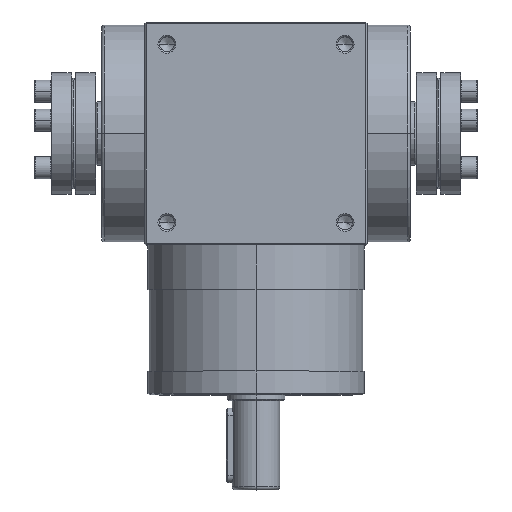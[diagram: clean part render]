
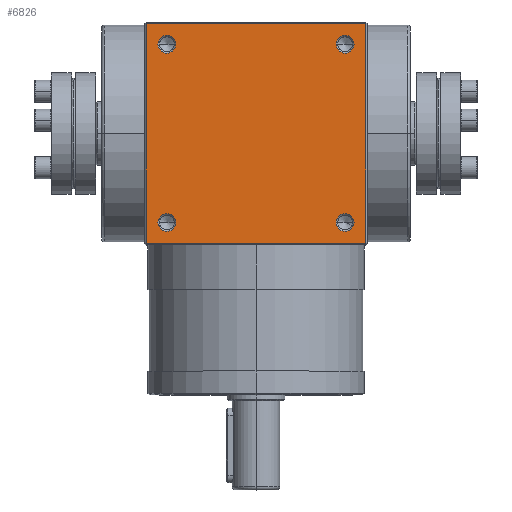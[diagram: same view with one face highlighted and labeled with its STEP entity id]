
A CAD part, top view. The second image highlights one B-rep face of the part: STEP entity #6826.
In plain terms, the highlighted planar face has unit normal (0, 0, 1).
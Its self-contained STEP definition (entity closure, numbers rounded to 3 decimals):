
#1 = CARTESIAN_POINT ( 'NONE',  ( 33., 30., 37.5 ) ) ;
#110 = VERTEX_POINT ( 'NONE', #9099 ) ;
#283 = DIRECTION ( 'NONE',  ( 0., 0., -1. ) ) ;
#594 = DIRECTION ( 'NONE',  ( -1., 0., 0. ) ) ;
#774 = AXIS2_PLACEMENT_3D ( 'NONE', #19070, #283, #19214 ) ;
#809 = DIRECTION ( 'NONE',  ( -1., 0., 0. ) ) ;
#1433 = CARTESIAN_POINT ( 'NONE',  ( 27., 30., 37.5 ) ) ;
#1584 = VECTOR ( 'NONE', #5516, 1000. ) ;
#1872 = DIRECTION ( 'NONE',  ( 0., 0., -1. ) ) ;
#2216 = CARTESIAN_POINT ( 'NONE',  ( -27., -30., 37.5 ) ) ;
#2442 = AXIS2_PLACEMENT_3D ( 'NONE', #7153, #1872, #7289 ) ;
#2523 = DIRECTION ( 'NONE',  ( -1., 0., 0. ) ) ;
#2906 = EDGE_CURVE ( 'NONE', #9012, #10651, #6354, .T. ) ;
#3180 = DIRECTION ( 'NONE',  ( 0., 0., -1. ) ) ;
#3316 = CARTESIAN_POINT ( 'NONE',  ( -37., -37., 37.5 ) ) ;
#3407 = DIRECTION ( 'NONE',  ( -1., 0., 0. ) ) ;
#3826 = EDGE_CURVE ( 'NONE', #10550, #14139, #6824, .T. ) ;
#4050 = EDGE_CURVE ( 'NONE', #10661, #20926, #12363, .T. ) ;
#4085 = DIRECTION ( 'NONE',  ( 1., 0., 0. ) ) ;
#4094 = ORIENTED_EDGE ( 'NONE', *, *, #3826, .T. ) ;
#4097 = DIRECTION ( 'NONE',  ( -1., 0., 0. ) ) ;
#4385 = DIRECTION ( 'NONE',  ( 0., 0., -1. ) ) ;
#4804 = AXIS2_PLACEMENT_3D ( 'NONE', #7010, #7545, #5355 ) ;
#4977 = FACE_BOUND ( 'NONE', #20074, .T. ) ;
#5001 = LINE ( 'NONE', #5279, #7433 ) ;
#5279 = CARTESIAN_POINT ( 'NONE',  ( 0., 37., 37.5 ) ) ;
#5355 = DIRECTION ( 'NONE',  ( -1., 0., 0. ) ) ;
#5420 = ORIENTED_EDGE ( 'NONE', *, *, #4050, .T. ) ;
#5516 = DIRECTION ( 'NONE',  ( 0., 1., 0. ) ) ;
#5616 = DIRECTION ( 'NONE',  ( 0., 0., -1. ) ) ;
#5671 = ORIENTED_EDGE ( 'NONE', *, *, #15772, .T. ) ;
#5861 = ORIENTED_EDGE ( 'NONE', *, *, #9810, .T. ) ;
#5871 = CARTESIAN_POINT ( 'NONE',  ( -37., 0., 37.5 ) ) ;
#6195 = AXIS2_PLACEMENT_3D ( 'NONE', #16116, #5616, #809 ) ;
#6251 = VECTOR ( 'NONE', #4085, 1000. ) ;
#6302 = AXIS2_PLACEMENT_3D ( 'NONE', #17939, #16217, #2523 ) ;
#6348 = EDGE_CURVE ( 'NONE', #110, #7300, #20746, .T. ) ;
#6354 = CIRCLE ( 'NONE', #6453, 3. ) ;
#6453 = AXIS2_PLACEMENT_3D ( 'NONE', #16746, #3180, #6757 ) ;
#6757 = DIRECTION ( 'NONE',  ( -1., 0., 0. ) ) ;
#6824 = CIRCLE ( 'NONE', #6195, 3. ) ;
#6826 = ADVANCED_FACE ( 'NONE', ( #12476, #19925, #11711, #4977, #9036 ), #18903, .F. ) ;
#6920 = DIRECTION ( 'NONE',  ( 0., 0., -1. ) ) ;
#7010 = CARTESIAN_POINT ( 'NONE',  ( 30., -30., 37.5 ) ) ;
#7153 = CARTESIAN_POINT ( 'NONE',  ( 0., 0., 37.5 ) ) ;
#7289 = DIRECTION ( 'NONE',  ( -1., 0., 0. ) ) ;
#7300 = VERTEX_POINT ( 'NONE', #11707 ) ;
#7433 = VECTOR ( 'NONE', #3407, 1000. ) ;
#7545 = DIRECTION ( 'NONE',  ( 0., 0., -1. ) ) ;
#8066 = EDGE_LOOP ( 'NONE', ( #14397, #5420 ) ) ;
#8397 = CARTESIAN_POINT ( 'NONE',  ( -33., -30., 37.5 ) ) ;
#8469 = ORIENTED_EDGE ( 'NONE', *, *, #18154, .T. ) ;
#8680 = VECTOR ( 'NONE', #19508, 1000. ) ;
#8789 = EDGE_CURVE ( 'NONE', #20335, #11325, #19549, .T. ) ;
#8868 = ORIENTED_EDGE ( 'NONE', *, *, #6348, .T. ) ;
#9012 = VERTEX_POINT ( 'NONE', #1433 ) ;
#9036 = FACE_OUTER_BOUND ( 'NONE', #10857, .T. ) ;
#9099 = CARTESIAN_POINT ( 'NONE',  ( 33., -30., 37.5 ) ) ;
#9810 = EDGE_CURVE ( 'NONE', #17594, #20335, #16383, .T. ) ;
#10230 = CIRCLE ( 'NONE', #6302, 3. ) ;
#10550 = VERTEX_POINT ( 'NONE', #18292 ) ;
#10651 = VERTEX_POINT ( 'NONE', #1 ) ;
#10661 = VERTEX_POINT ( 'NONE', #8397 ) ;
#10786 = DIRECTION ( 'NONE',  ( 0., 0., -1. ) ) ;
#10857 = EDGE_LOOP ( 'NONE', ( #5861, #16972, #19932, #8469 ) ) ;
#10936 = EDGE_CURVE ( 'NONE', #14139, #10550, #20570, .T. ) ;
#11141 = CARTESIAN_POINT ( 'NONE',  ( 30., -30., 37.5 ) ) ;
#11325 = VERTEX_POINT ( 'NONE', #17357 ) ;
#11640 = AXIS2_PLACEMENT_3D ( 'NONE', #14076, #6920, #12316 ) ;
#11707 = CARTESIAN_POINT ( 'NONE',  ( 27., -30., 37.5 ) ) ;
#11711 = FACE_BOUND ( 'NONE', #21278, .T. ) ;
#12194 = VERTEX_POINT ( 'NONE', #20341 ) ;
#12316 = DIRECTION ( 'NONE',  ( -1., 0., 0. ) ) ;
#12363 = CIRCLE ( 'NONE', #11640, 3. ) ;
#12390 = CARTESIAN_POINT ( 'NONE',  ( -37., 37., 37.5 ) ) ;
#12476 = FACE_BOUND ( 'NONE', #20693, .T. ) ;
#12908 = ORIENTED_EDGE ( 'NONE', *, *, #10936, .T. ) ;
#13118 = CARTESIAN_POINT ( 'NONE',  ( -33., 30., 37.5 ) ) ;
#13208 = EDGE_CURVE ( 'NONE', #11325, #12194, #14373, .T. ) ;
#13316 = EDGE_CURVE ( 'NONE', #20926, #10661, #14354, .T. ) ;
#14076 = CARTESIAN_POINT ( 'NONE',  ( -30., -30., 37.5 ) ) ;
#14139 = VERTEX_POINT ( 'NONE', #13118 ) ;
#14316 = CARTESIAN_POINT ( 'NONE',  ( 0., -37., 37.5 ) ) ;
#14354 = CIRCLE ( 'NONE', #774, 3. ) ;
#14373 = LINE ( 'NONE', #18702, #1584 ) ;
#14397 = ORIENTED_EDGE ( 'NONE', *, *, #13316, .T. ) ;
#14728 = ORIENTED_EDGE ( 'NONE', *, *, #2906, .T. ) ;
#15772 = EDGE_CURVE ( 'NONE', #10651, #9012, #10230, .T. ) ;
#16116 = CARTESIAN_POINT ( 'NONE',  ( -30., 30., 37.5 ) ) ;
#16217 = DIRECTION ( 'NONE',  ( 0., 0., -1. ) ) ;
#16383 = LINE ( 'NONE', #5871, #8680 ) ;
#16746 = CARTESIAN_POINT ( 'NONE',  ( 30., 30., 37.5 ) ) ;
#16972 = ORIENTED_EDGE ( 'NONE', *, *, #8789, .T. ) ;
#17238 = AXIS2_PLACEMENT_3D ( 'NONE', #11141, #4385, #4097 ) ;
#17357 = CARTESIAN_POINT ( 'NONE',  ( 37., -37., 37.5 ) ) ;
#17402 = ORIENTED_EDGE ( 'NONE', *, *, #20174, .T. ) ;
#17594 = VERTEX_POINT ( 'NONE', #12390 ) ;
#17939 = CARTESIAN_POINT ( 'NONE',  ( 30., 30., 37.5 ) ) ;
#18154 = EDGE_CURVE ( 'NONE', #12194, #17594, #5001, .T. ) ;
#18292 = CARTESIAN_POINT ( 'NONE',  ( -27., 30., 37.5 ) ) ;
#18702 = CARTESIAN_POINT ( 'NONE',  ( 37., 0., 37.5 ) ) ;
#18903 = PLANE ( 'NONE',  #2442 ) ;
#19070 = CARTESIAN_POINT ( 'NONE',  ( -30., -30., 37.5 ) ) ;
#19090 = CARTESIAN_POINT ( 'NONE',  ( -30., 30., 37.5 ) ) ;
#19214 = DIRECTION ( 'NONE',  ( -1., 0., 0. ) ) ;
#19378 = CIRCLE ( 'NONE', #17238, 3. ) ;
#19508 = DIRECTION ( 'NONE',  ( 0., -1., 0. ) ) ;
#19549 = LINE ( 'NONE', #14316, #6251 ) ;
#19925 = FACE_BOUND ( 'NONE', #8066, .T. ) ;
#19932 = ORIENTED_EDGE ( 'NONE', *, *, #13208, .T. ) ;
#20074 = EDGE_LOOP ( 'NONE', ( #4094, #12908 ) ) ;
#20174 = EDGE_CURVE ( 'NONE', #7300, #110, #19378, .T. ) ;
#20335 = VERTEX_POINT ( 'NONE', #3316 ) ;
#20341 = CARTESIAN_POINT ( 'NONE',  ( 37., 37., 37.5 ) ) ;
#20570 = CIRCLE ( 'NONE', #21519, 3. ) ;
#20693 = EDGE_LOOP ( 'NONE', ( #8868, #17402 ) ) ;
#20746 = CIRCLE ( 'NONE', #4804, 3. ) ;
#20926 = VERTEX_POINT ( 'NONE', #2216 ) ;
#21278 = EDGE_LOOP ( 'NONE', ( #5671, #14728 ) ) ;
#21519 = AXIS2_PLACEMENT_3D ( 'NONE', #19090, #10786, #594 ) ;
